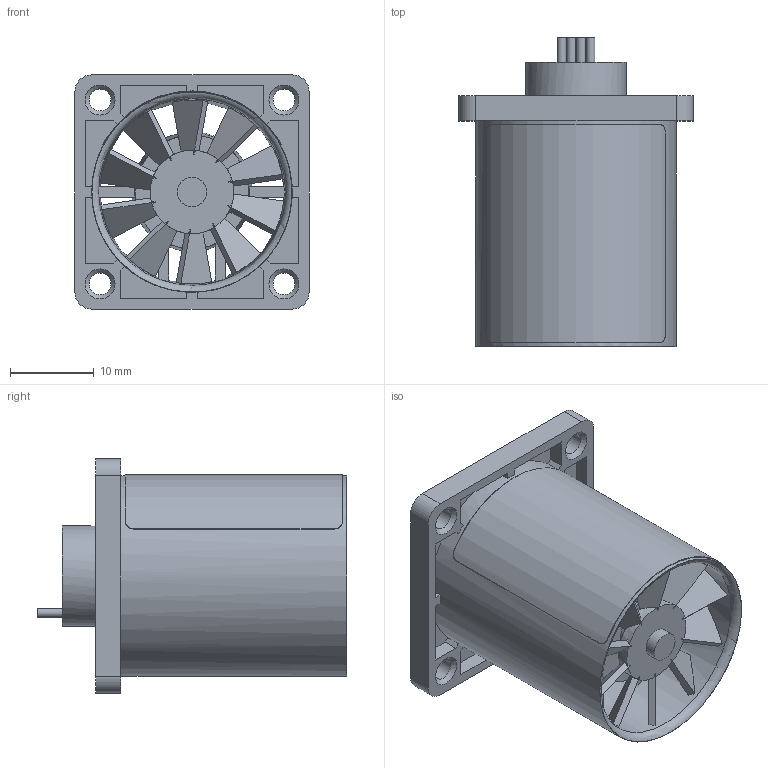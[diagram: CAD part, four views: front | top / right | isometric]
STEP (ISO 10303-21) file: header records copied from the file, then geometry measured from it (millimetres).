
FILE_DESCRIPTION(/* description */ (''),/* implementation_level */ '2;1');
FILE_NAME(/* name */ 'Fan D243P-006KH-4.stp',/* time_stamp */ '2021-04-19T12:26:17+02:00',/* author */ (''),/* organization */ (''),/* preprocessor_version */ 'ST-DEVELOPER v16.7',/* originating_system */ 'SIEMENS PLM Software NX 1946',/* authorisation */ '');
FILE_SCHEMA (('AUTOMOTIVE_DESIGN { 1 0 10303 214 3 1 1 1 }'));
Length unit declared in the file: millimetre
Products named in the file (1): 015792_1-Fan D243P-006KH-4 _-_
Bounding box: 28 x 37 x 28 mm (x, y, z)
Surface area: 8634 mm2 (no closed solid volume)
Topology: 0 solids, 1 shells, 244 faces, 677 edges, 446 vertices
Faces by surface type: plane 176, cylinder 52, cone 14, torus 2
Full cylindrical faces by diameter (mm): 1.05 x4, 1.25 x2, 1.5 x1, 2.5 x1, 2.6 x4, 3.5 x2, 5 x1, 12 x1, 24 x1
Entity records: 7947 total; most frequent: CARTESIAN_POINT 1591, DIRECTION 1300, ORIENTED_EDGE 1252, EDGE_CURVE 626, AXIS2_PLACEMENT_3D 461, VERTEX_POINT 432, LINE 378, VECTOR 378
